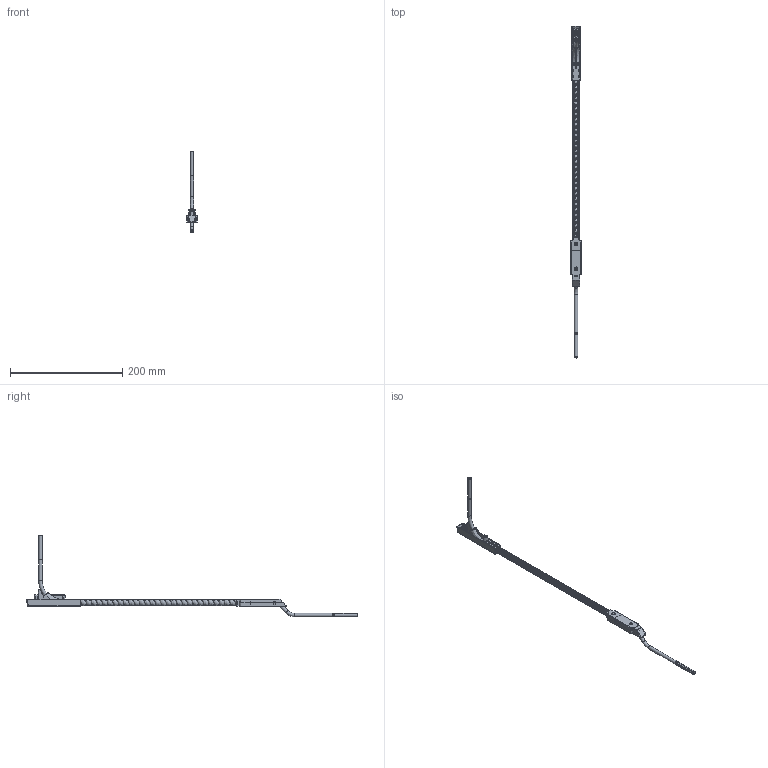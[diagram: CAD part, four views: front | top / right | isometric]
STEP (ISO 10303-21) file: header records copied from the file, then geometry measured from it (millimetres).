
FILE_DESCRIPTION(/* description */ (''),/* implementation_level */ '2;1');
FILE_NAME(/* name */ 'ZGL_2003823- Kabelbergang M 13 65.stp',/* time_stamp */ '2026-07-29T12:58:18+02:00',/* author */ ('lthom'),/* organization */ (''),/* preprocessor_version */ 'ST-DEVELOPER v20',/* originating_system */ 'Autodesk Inventor 2025',/* authorisation */ '');
FILE_SCHEMA (('AUTOMOTIVE_DESIGN { 1 0 10303 214 3 1 1 }'));
Length unit declared in the file: millimetre
Products named in the file (14): 2003823- Kabelübergang M 13 65; 9200564-Buchse M 13 65 halbfertig ; 2003423- Buchsenleiste 12pol; 9100488- Buchse_umspritzt; 2003422- Feder 295 x 11; 2002727- Kabel LiF9Y11Y 12x0,25mm² gr (Buchsenseit
e); 9200563-Stecker M 13 65 umspritzt ; 2003424- Stiftleiste 12pol; 9200531_Stecker_umspritzt; 2003421- Grundplatte; 2002727- Kabel LiF9Y11Y 12x0,25mm² gr (M 13 65 Stecker); 2003623- Beipack M 13 65; 2003609- Endkopf M 13 65 gr; 2003608- Aufnahme M 13 65 gr
Assembly tree (13 placements, depth 3):
  2003823- Kabelübergang M 13 65
    9200564-Buchse M 13 65 halbfertig 
      2003423- Buchsenleiste 12pol
      9100488- Buchse_umspritzt
      2003422- Feder 295 x 11
      2002727- Kabel LiF9Y11Y 12x0,25mm² gr (Buchsenseit
e)
    9200563-Stecker M 13 65 umspritzt 
      2003424- Stiftleiste 12pol
      9200531_Stecker_umspritzt
      2003421- Grundplatte
      2002727- Kabel LiF9Y11Y 12x0,25mm² gr (M 13 65 Stecker)
    2003623- Beipack M 13 65
      2003609- Endkopf M 13 65 gr
      2003608- Aufnahme M 13 65 gr
Bounding box: 19.5 x 591.6 x 145.27 mm (x, y, z)
Volume: 52691 mm3; surface area: 73981.9 mm2
Topology: 23 solids, 23 shells, 2022 faces, 5017 edges, 3182 vertices
Faces by surface type: plane 897, cylinder 686, torus 163, bspline 131, cone 75, sphere 70
Full cylindrical faces by diameter (mm): 0.5 x24, 0.6 x36, 1.2 x144, 2 x26, 3.2 x3, 3.24 x1, 3.4 x1, 3.6 x1, 6 x3, 6.2 x9, 6.4 x2, 6.5 x1, 9.4 x4, 11 x1
Entity records: 84651 total; most frequent: CARTESIAN_POINT 34798, DIRECTION 10139, ORIENTED_EDGE 10014, EDGE_CURVE 5007, AXIS2_PLACEMENT_3D 3760, VERTEX_POINT 3158, LINE 2619, VECTOR 2619
